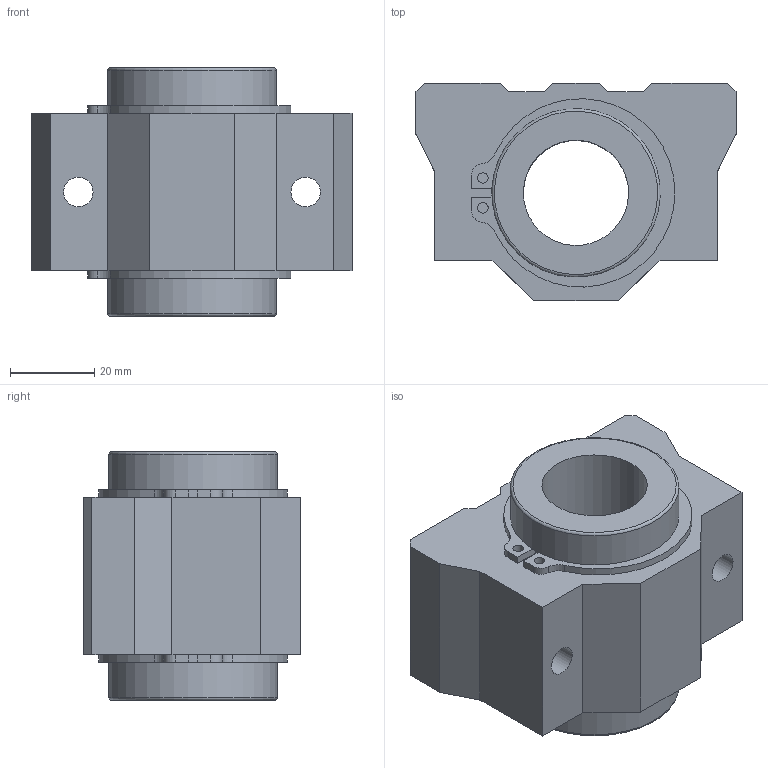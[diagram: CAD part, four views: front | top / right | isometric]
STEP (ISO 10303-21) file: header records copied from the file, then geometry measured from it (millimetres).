
FILE_DESCRIPTION(('STEP AP203'),'1');
FILE_NAME('//192.168.1.1/share/s-4 技術開発/s-4-4_CAD/s-4-4-3_見直し済み/008 修正済み/LC-C/LC-C_TOP/LC-25VCUU.step','2022-05-19T01:26:22',(' '),(' '),'Spatial InterOp 3D',' ',' ');
FILE_SCHEMA(('CONFIG_CONTROL_DESIGN'));
Length unit declared in the file: millimetre
Products named in the file (4): 1; 2; 3; 4
Bounding box: 76 x 51.5 x 59 mm (x, y, z)
Volume: 115843.9 mm3; surface area: 36048.1 mm2
Topology: 4 solids, 4 shells, 71 faces, 178 edges, 119 vertices
Faces by surface type: plane 42, cylinder 27, torus 2
Full cylindrical faces by diameter (mm): 2.5 x4, 7 x4, 25 x1, 38 x2, 40 x4
Entity records: 2212 total; most frequent: DIRECTION 360, CARTESIAN_POINT 345, ORIENTED_EDGE 312, EDGE_CURVE 156, AXIS2_PLACEMENT_3D 129, VERTEX_POINT 114, EDGE_LOOP 108, LINE 102
